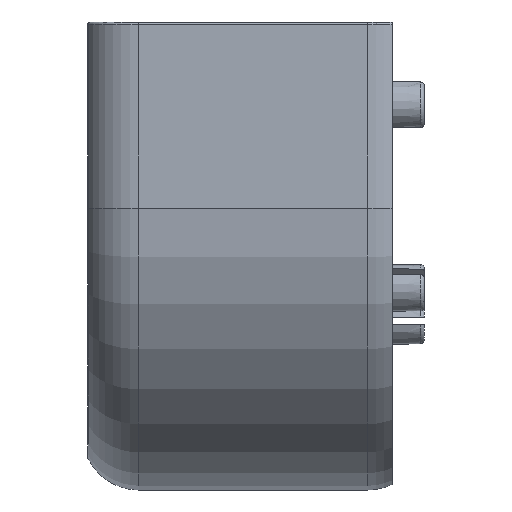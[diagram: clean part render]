
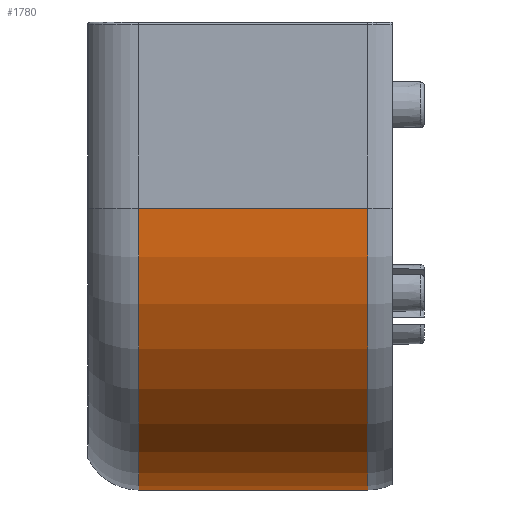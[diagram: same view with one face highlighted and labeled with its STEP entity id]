
A CAD part, left-side view. The second image highlights one B-rep face of the part: STEP entity #1780.
In plain terms, the highlighted cylindrical face has radius 15 mm (diameter 30 mm), a partial arc.
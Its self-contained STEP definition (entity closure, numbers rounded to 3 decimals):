
#51 = VECTOR ( 'NONE', #480, 1000. ) ;
#184 = CARTESIAN_POINT ( 'NONE',  ( -12.5, -1.25, -17.071 ) ) ;
#268 = AXIS2_PLACEMENT_3D ( 'NONE', #3173, #2406, #1772 ) ;
#396 = ORIENTED_EDGE ( 'NONE', *, *, #3802, .F. ) ;
#480 = DIRECTION ( 'NONE',  ( 0., 1., 0. ) ) ;
#498 = AXIS2_PLACEMENT_3D ( 'NONE', #2139, #819, #2444 ) ;
#722 = EDGE_CURVE ( 'NONE', #890, #2667, #2740, .T. ) ;
#746 = CIRCLE ( 'NONE', #268, 15. ) ;
#819 = DIRECTION ( 'NONE',  ( 0., 1., 0. ) ) ;
#890 = VERTEX_POINT ( 'NONE', #184 ) ;
#976 = DIRECTION ( 'NONE',  ( 0., 1., 0. ) ) ;
#1133 = DIRECTION ( 'NONE',  ( 0., 1., 0. ) ) ;
#1137 = CYLINDRICAL_SURFACE ( 'NONE', #498, 15. ) ;
#1179 = DIRECTION ( 'NONE',  ( 0., 0., -1. ) ) ;
#1409 = CARTESIAN_POINT ( 'NONE',  ( -12.5, -2.94, -17.071 ) ) ;
#1663 = CARTESIAN_POINT ( 'NONE',  ( -12.5, 10.94, -17.071 ) ) ;
#1772 = DIRECTION ( 'NONE',  ( 0., 0., -1. ) ) ;
#1780 = ADVANCED_FACE ( 'NONE', ( #3970 ), #1137, .T. ) ;
#1863 = VERTEX_POINT ( 'NONE', #2541 ) ;
#2139 = CARTESIAN_POINT ( 'NONE',  ( 2.5, 0.7, -17.071 ) ) ;
#2159 = AXIS2_PLACEMENT_3D ( 'NONE', #3829, #1133, #1179 ) ;
#2187 = CARTESIAN_POINT ( 'NONE',  ( 2.5, -1.25, -32.071 ) ) ;
#2338 = ORIENTED_EDGE ( 'NONE', *, *, #2908, .F. ) ;
#2406 = DIRECTION ( 'NONE',  ( 0., 1., 0. ) ) ;
#2444 = DIRECTION ( 'NONE',  ( 0., 0., 1. ) ) ;
#2501 = EDGE_LOOP ( 'NONE', ( #396, #2338, #2604, #2783 ) ) ;
#2541 = CARTESIAN_POINT ( 'NONE',  ( 2.5, 10.94, -32.071 ) ) ;
#2604 = ORIENTED_EDGE ( 'NONE', *, *, #3892, .T. ) ;
#2620 = VECTOR ( 'NONE', #976, 1000. ) ;
#2667 = VERTEX_POINT ( 'NONE', #1663 ) ;
#2740 = LINE ( 'NONE', #1409, #51 ) ;
#2783 = ORIENTED_EDGE ( 'NONE', *, *, #722, .T. ) ;
#2908 = EDGE_CURVE ( 'NONE', #3646, #1863, #3809, .T. ) ;
#2945 = CIRCLE ( 'NONE', #2159, 15. ) ;
#3173 = CARTESIAN_POINT ( 'NONE',  ( 2.5, 10.94, -17.071 ) ) ;
#3526 = CARTESIAN_POINT ( 'NONE',  ( 2.5, -2.94, -32.071 ) ) ;
#3646 = VERTEX_POINT ( 'NONE', #2187 ) ;
#3802 = EDGE_CURVE ( 'NONE', #1863, #2667, #746, .T. ) ;
#3809 = LINE ( 'NONE', #3526, #2620 ) ;
#3829 = CARTESIAN_POINT ( 'NONE',  ( 2.5, -1.25, -17.071 ) ) ;
#3892 = EDGE_CURVE ( 'NONE', #3646, #890, #2945, .T. ) ;
#3970 = FACE_OUTER_BOUND ( 'NONE', #2501, .T. ) ;
